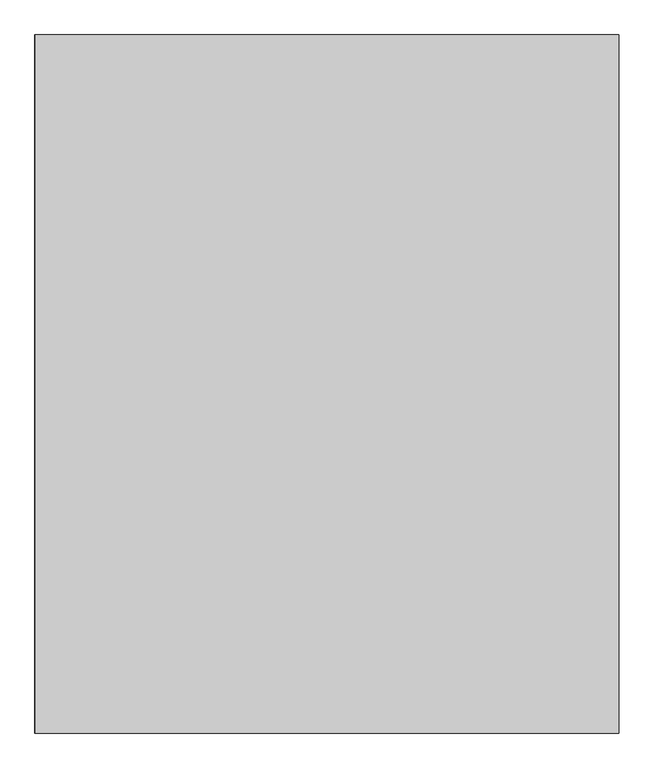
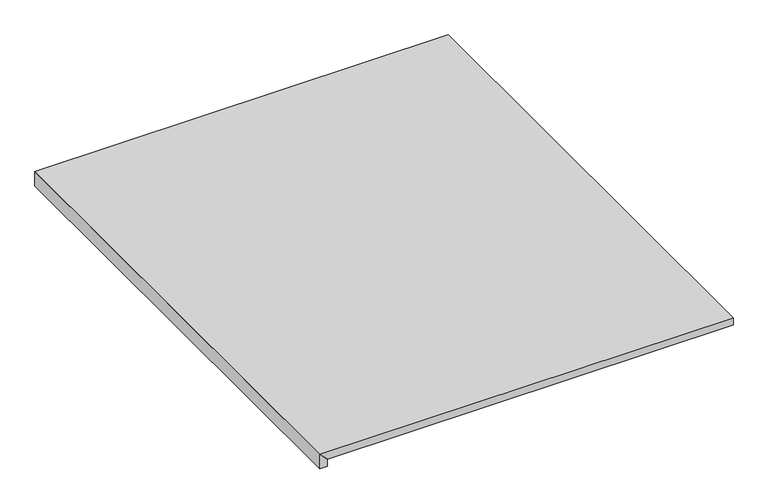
"""IFC4 building model written with IfcOpenShell, lengths in millimetres: proxy geometry, BASYS^U OFFICE 6_41 WALL HUNG LT TACK-PARTS SOLID."""

from ifc_helpers import new_model, si_unit, frame, origin, place, context, project, spatial, polyline, outline, extrude, source, transform, mapped, element, save


def generic_models_d356c26e(model_context):
    return source(origin(), model_context, "Body", "SweptSolid", [
        extrude(outline(polyline([(-19.05, 0.0), (-19.05, 19.05), (0.0, 19.05), (19.05, 0.0), (-19.05, 0.0)])), frame((0.0, 0.0, 0.0), z_axis=(0.0, 1.0, 0.0), x_axis=(0.0, 0.0, 1.0)), (0.0, 0.0, 1.0), 1243.0125),
        extrude(outline(polyline([(19.05, 0.0), (0.0, 19.05), (0.0, 1040.60625), (19.05, 1040.60625), (19.05, 0.0)])), frame((0.0, 0.0, 0.0), z_axis=(0.0, 1.0, 0.0), x_axis=(0.0, 0.0, 1.0)), (0.0, 0.0, 1.0), 1243.0125),
    ])


if __name__ == "__main__":
    model = new_model("IFC4")
    model_context = context("Model", 3, world=origin())
    ifc_project = project(units=[si_unit("LENGTHUNIT", "METRE", prefix="MILLI")], contexts=[model_context])
    site = spatial("IfcSite", under=ifc_project)
    building = spatial("IfcBuilding", under=site)
    placement = place(None, origin())
    generic_models_shape = generic_models_d356c26e(model_context)
    element("IfcBuildingElementProxy", 1, Name="BASYS^U OFFICE 6_41 WALL HUNG LT TACK-PARTS SOLID", ObjectType="BASYS^U OFFICE 6_41 WALL HUNG LT TACK-PARTS SOLID", at=placement, inside=building, context=model_context, shape_type="MappedRepresentation", body=[
        mapped(generic_models_shape, transform((0.0, 0.0, 0.0), x_axis=(1.0, 0.0, 0.0), y_axis=(0.0, 1.0, 0.0), z_axis=(0.0, 0.0, 1.0))),
    ])
    save(model, "model.ifc")
